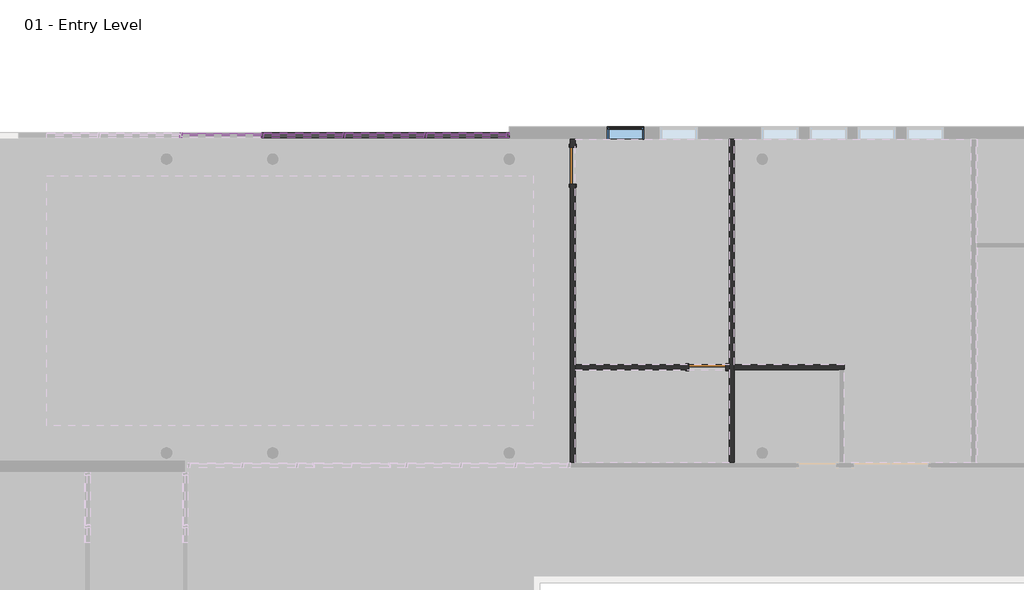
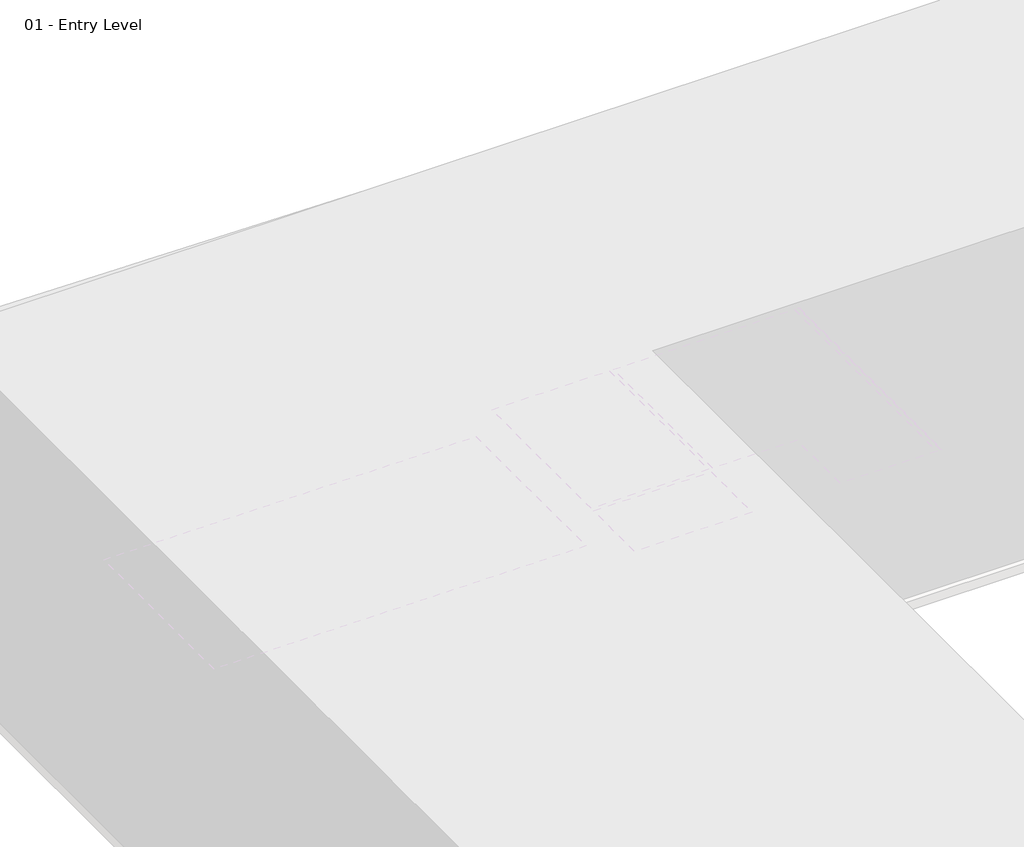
# One storey, part 29 of 34: 81 members, 36 plates, 3 walls, 2 doors, 1 window.
"""IFC4 building model written with IfcOpenShell, lengths in millimetres."""

from ifc_helpers import new_model, si_unit, origin, place, context, project, spatial, faceted_brep, transform, mapped, element, save
from components import door_a1797ceb, member_2b49869a, member_75074519, member_391b434c, member_9e90ae50, system_panel_glazed_1b9d6098, system_panel_glazed_70da479d, system_panel_solid_b376696c, system_panel_solid_77e8b053, window_dfee3f32

model = new_model("IFC4")

# Units and contexts
model_context = context("Model", 3, world=origin())
ifc_project = project(units=[si_unit("LENGTHUNIT", "METRE", prefix="MILLI")], contexts=[model_context])

# Site, building, storey
site = spatial("IfcSite", under=ifc_project)
building = spatial("IfcBuilding", under=site)
storey = spatial("IfcBuildingStorey", under=building, Name="01 - Entry Level", Elevation=0.0)

# Doors
placement = place(None, origin())
door_shape = door_a1797ceb(model_context)
element("IfcDoor", 1, ObjectType="Single-Flush : 36\" x 84\"", at=placement, inside=storey, context=model_context, shape_type="MappedRepresentation", body=[
    mapped(door_shape, transform((21413.1207476, 48047.2, 0.0), x_axis=(1.0, 0.0, 0.0), y_axis=(0.0, 1.0, 0.0), z_axis=(0.0, 0.0, 1.0))),
])
element("IfcDoor", 2, ObjectType="Single-Flush-Dbl Acting : 36\" x 84\"", at=placement, inside=storey, context=model_context, shape_type="MappedRepresentation", body=[
    mapped(door_shape, transform((18060.3207476, 53063.7, 0.0), x_axis=(0.0, 1.0, 0.0), y_axis=(-1.0, 0.0, 0.0), z_axis=(0.0, 0.0, 1.0))),
])

# Members
member_shape = member_2b49869a(model_context)
element("IfcMember", 3, ObjectType="Rectangular Mullion : 2.5\" x 5\" rectangular", at=placement, inside=storey, context=model_context, shape_type="MappedRepresentation", body=[
    mapped(member_shape, transform((16434.7207476, 53825.7, 9753.6), x_axis=(-1.0, 0.0, 0.0), y_axis=(0.0, 1.0, 0.0), z_axis=(0.0, 0.0, -1.0))),
])
element("IfcMember", 4, ObjectType="Rectangular Mullion : 2.5\" x 5\" rectangular", at=placement, inside=storey, context=model_context, shape_type="MappedRepresentation", body=[
    mapped(member_shape, transform((14402.7207476, 53825.7, 9753.6), x_axis=(-1.0, 0.0, 0.0), y_axis=(0.0, 1.0, 0.0), z_axis=(0.0, 0.0, -1.0))),
])
element("IfcMember", 5, ObjectType="Rectangular Mullion : 2.5\" x 5\" rectangular", at=placement, inside=storey, context=model_context, shape_type="MappedRepresentation", body=[
    mapped(member_shape, transform((12370.7207476, 53825.7, 9753.6), x_axis=(-1.0, 0.0, 0.0), y_axis=(0.0, 1.0, 0.0), z_axis=(0.0, 0.0, -1.0))),
])
element("IfcMember", 6, ObjectType="Rectangular Mullion : 2.5\" x 5\" rectangular", at=placement, inside=storey, context=model_context, shape_type="MappedRepresentation", body=[
    mapped(member_shape, transform((10338.7207476, 53825.7, 9753.6), x_axis=(-1.0, 0.0, 0.0), y_axis=(0.0, 1.0, 0.0), z_axis=(0.0, 0.0, -1.0))),
])
element("IfcMember", 7, ObjectType="Rectangular Mullion : 2.5\" x 5\" rectangular", at=placement, inside=storey, context=model_context, shape_type="MappedRepresentation", body=[
    mapped(member_shape, transform((8306.7207476, 53825.7, 9753.6), x_axis=(-1.0, 0.0, 0.0), y_axis=(0.0, 1.0, 0.0), z_axis=(0.0, 0.0, -1.0))),
])
member_2_shape = member_75074519(model_context)
element("IfcMember", 8, ObjectType="Rectangular Mullion : 2.5\" x 5\" rectangular", at=placement, inside=storey, context=model_context, shape_type="MappedRepresentation", body=[
    mapped(member_2_shape, transform((16485.5207476, 53825.7, 10972.8), x_axis=(1.0, 0.0, 0.0), y_axis=(0.0, 1.0, 0.0), z_axis=(0.0, 0.0, 1.0))),
])
member_3_shape = member_391b434c(model_context)
element("IfcMember", 9, ObjectType="Rectangular Mullion : 2.5\" x 5\" rectangular", at=placement, inside=storey, context=model_context, shape_type="MappedRepresentation", body=[
    mapped(member_3_shape, transform((14434.4707476, 53825.7, 10972.8), x_axis=(0.0, 0.0, 1.0), y_axis=(0.0, 1.0, 0.0), z_axis=(-1.0, 0.0, 0.0))),
])
element("IfcMember", 10, ObjectType="Rectangular Mullion : 2.5\" x 5\" rectangular", at=placement, inside=storey, context=model_context, shape_type="MappedRepresentation", body=[
    mapped(member_3_shape, transform((12402.4707476, 53825.7, 10972.8), x_axis=(0.0, 0.0, 1.0), y_axis=(0.0, 1.0, 0.0), z_axis=(-1.0, 0.0, 0.0))),
])
element("IfcMember", 11, ObjectType="Rectangular Mullion : 2.5\" x 5\" rectangular", at=placement, inside=storey, context=model_context, shape_type="MappedRepresentation", body=[
    mapped(member_3_shape, transform((10370.4707476, 53825.7, 10972.8), x_axis=(0.0, 0.0, 1.0), y_axis=(0.0, 1.0, 0.0), z_axis=(-1.0, 0.0, 0.0))),
])
element("IfcMember", 12, ObjectType="Rectangular Mullion : 2.5\" x 5\" rectangular", at=placement, inside=storey, context=model_context, shape_type="MappedRepresentation", body=[
    mapped(member_3_shape, transform((16402.9707476, 53825.7, 0.0), x_axis=(0.0, 0.0, -1.0), y_axis=(0.0, 1.0, 0.0), z_axis=(1.0, 0.0, 0.0))),
])
element("IfcMember", 13, ObjectType="Rectangular Mullion : 2.5\" x 5\" rectangular", at=placement, inside=storey, context=model_context, shape_type="MappedRepresentation", body=[
    mapped(member_3_shape, transform((14370.9707476, 53825.7, 0.0), x_axis=(0.0, 0.0, -1.0), y_axis=(0.0, 1.0, 0.0), z_axis=(1.0, 0.0, 0.0))),
])
element("IfcMember", 14, ObjectType="Rectangular Mullion : 2.5\" x 5\" rectangular", at=placement, inside=storey, context=model_context, shape_type="MappedRepresentation", body=[
    mapped(member_3_shape, transform((12338.9707476, 53825.7, 0.0), x_axis=(0.0, 0.0, -1.0), y_axis=(0.0, 1.0, 0.0), z_axis=(1.0, 0.0, 0.0))),
])
element("IfcMember", 15, ObjectType="Rectangular Mullion : 2.5\" x 5\" rectangular", at=placement, inside=storey, context=model_context, shape_type="MappedRepresentation", body=[
    mapped(member_3_shape, transform((10306.9707476, 53825.7, 0.0), x_axis=(0.0, 0.0, -1.0), y_axis=(0.0, 1.0, 0.0), z_axis=(1.0, 0.0, 0.0))),
])
member_4_shape = member_9e90ae50(model_context)
element("IfcMember", 16, ObjectType="Rectangular Mullion : 2.5\" x 5\" rectangular", at=placement, inside=storey, context=model_context, shape_type="MappedRepresentation", body=[
    mapped(member_4_shape, transform((14434.4707476, 53825.7, 1219.2), x_axis=(0.0, 0.0, 1.0), y_axis=(0.0, 1.0, 0.0), z_axis=(-1.0, 0.0, 0.0))),
])
element("IfcMember", 17, ObjectType="Rectangular Mullion : 2.5\" x 5\" rectangular", at=placement, inside=storey, context=model_context, shape_type="MappedRepresentation", body=[
    mapped(member_4_shape, transform((12402.4707476, 53825.7, 1219.2), x_axis=(0.0, 0.0, 1.0), y_axis=(0.0, 1.0, 0.0), z_axis=(-1.0, 0.0, 0.0))),
])
element("IfcMember", 18, ObjectType="Rectangular Mullion : 2.5\" x 5\" rectangular", at=placement, inside=storey, context=model_context, shape_type="MappedRepresentation", body=[
    mapped(member_4_shape, transform((10370.4707476, 53825.7, 1219.2), x_axis=(0.0, 0.0, 1.0), y_axis=(0.0, 1.0, 0.0), z_axis=(-1.0, 0.0, 0.0))),
])
element("IfcMember", 19, ObjectType="Rectangular Mullion : 2.5\" x 5\" rectangular", at=placement, inside=storey, context=model_context, shape_type="MappedRepresentation", body=[
    mapped(member_4_shape, transform((14434.4707476, 53825.7, 2438.4), x_axis=(0.0, 0.0, 1.0), y_axis=(0.0, 1.0, 0.0), z_axis=(-1.0, 0.0, 0.0))),
])
element("IfcMember", 20, ObjectType="Rectangular Mullion : 2.5\" x 5\" rectangular", at=placement, inside=storey, context=model_context, shape_type="MappedRepresentation", body=[
    mapped(member_4_shape, transform((12402.4707476, 53825.7, 2438.4), x_axis=(0.0, 0.0, 1.0), y_axis=(0.0, 1.0, 0.0), z_axis=(-1.0, 0.0, 0.0))),
])
element("IfcMember", 21, ObjectType="Rectangular Mullion : 2.5\" x 5\" rectangular", at=placement, inside=storey, context=model_context, shape_type="MappedRepresentation", body=[
    mapped(member_4_shape, transform((10370.4707476, 53825.7, 2438.4), x_axis=(0.0, 0.0, 1.0), y_axis=(0.0, 1.0, 0.0), z_axis=(-1.0, 0.0, 0.0))),
])
element("IfcMember", 22, ObjectType="Rectangular Mullion : 2.5\" x 5\" rectangular", at=placement, inside=storey, context=model_context, shape_type="MappedRepresentation", body=[
    mapped(member_4_shape, transform((14434.4707476, 53825.7, 3657.6), x_axis=(0.0, 0.0, 1.0), y_axis=(0.0, 1.0, 0.0), z_axis=(-1.0, 0.0, 0.0))),
])
element("IfcMember", 23, ObjectType="Rectangular Mullion : 2.5\" x 5\" rectangular", at=placement, inside=storey, context=model_context, shape_type="MappedRepresentation", body=[
    mapped(member_4_shape, transform((12402.4707476, 53825.7, 3657.6), x_axis=(0.0, 0.0, 1.0), y_axis=(0.0, 1.0, 0.0), z_axis=(-1.0, 0.0, 0.0))),
])
element("IfcMember", 24, ObjectType="Rectangular Mullion : 2.5\" x 5\" rectangular", at=placement, inside=storey, context=model_context, shape_type="MappedRepresentation", body=[
    mapped(member_4_shape, transform((10370.4707476, 53825.7, 3657.6), x_axis=(0.0, 0.0, 1.0), y_axis=(0.0, 1.0, 0.0), z_axis=(-1.0, 0.0, 0.0))),
])
element("IfcMember", 25, ObjectType="Rectangular Mullion : 2.5\" x 5\" rectangular", at=placement, inside=storey, context=model_context, shape_type="MappedRepresentation", body=[
    mapped(member_4_shape, transform((14434.4707476, 53825.7, 4876.8), x_axis=(0.0, 0.0, 1.0), y_axis=(0.0, 1.0, 0.0), z_axis=(-1.0, 0.0, 0.0))),
])
element("IfcMember", 26, ObjectType="Rectangular Mullion : 2.5\" x 5\" rectangular", at=placement, inside=storey, context=model_context, shape_type="MappedRepresentation", body=[
    mapped(member_4_shape, transform((12402.4707476, 53825.7, 4876.8), x_axis=(0.0, 0.0, 1.0), y_axis=(0.0, 1.0, 0.0), z_axis=(-1.0, 0.0, 0.0))),
])
element("IfcMember", 27, ObjectType="Rectangular Mullion : 2.5\" x 5\" rectangular", at=placement, inside=storey, context=model_context, shape_type="MappedRepresentation", body=[
    mapped(member_4_shape, transform((10370.4707476, 53825.7, 4876.8), x_axis=(0.0, 0.0, 1.0), y_axis=(0.0, 1.0, 0.0), z_axis=(-1.0, 0.0, 0.0))),
])
element("IfcMember", 28, ObjectType="Rectangular Mullion : 2.5\" x 5\" rectangular", at=placement, inside=storey, context=model_context, shape_type="MappedRepresentation", body=[
    mapped(member_4_shape, transform((14434.4707476, 53825.7, 6096.0), x_axis=(0.0, 0.0, 1.0), y_axis=(0.0, 1.0, 0.0), z_axis=(-1.0, 0.0, 0.0))),
])
element("IfcMember", 29, ObjectType="Rectangular Mullion : 2.5\" x 5\" rectangular", at=placement, inside=storey, context=model_context, shape_type="MappedRepresentation", body=[
    mapped(member_4_shape, transform((12402.4707476, 53825.7, 6096.0), x_axis=(0.0, 0.0, 1.0), y_axis=(0.0, 1.0, 0.0), z_axis=(-1.0, 0.0, 0.0))),
])
element("IfcMember", 30, ObjectType="Rectangular Mullion : 2.5\" x 5\" rectangular", at=placement, inside=storey, context=model_context, shape_type="MappedRepresentation", body=[
    mapped(member_4_shape, transform((10370.4707476, 53825.7, 6096.0), x_axis=(0.0, 0.0, 1.0), y_axis=(0.0, 1.0, 0.0), z_axis=(-1.0, 0.0, 0.0))),
])
element("IfcMember", 31, ObjectType="Rectangular Mullion : 2.5\" x 5\" rectangular", at=placement, inside=storey, context=model_context, shape_type="MappedRepresentation", body=[
    mapped(member_4_shape, transform((14434.4707476, 53825.7, 7315.2), x_axis=(0.0, 0.0, 1.0), y_axis=(0.0, 1.0, 0.0), z_axis=(-1.0, 0.0, 0.0))),
])
element("IfcMember", 32, ObjectType="Rectangular Mullion : 2.5\" x 5\" rectangular", at=placement, inside=storey, context=model_context, shape_type="MappedRepresentation", body=[
    mapped(member_4_shape, transform((12402.4707476, 53825.7, 7315.2), x_axis=(0.0, 0.0, 1.0), y_axis=(0.0, 1.0, 0.0), z_axis=(-1.0, 0.0, 0.0))),
])
element("IfcMember", 33, ObjectType="Rectangular Mullion : 2.5\" x 5\" rectangular", at=placement, inside=storey, context=model_context, shape_type="MappedRepresentation", body=[
    mapped(member_4_shape, transform((10370.4707476, 53825.7, 7315.2), x_axis=(0.0, 0.0, 1.0), y_axis=(0.0, 1.0, 0.0), z_axis=(-1.0, 0.0, 0.0))),
])
element("IfcMember", 34, ObjectType="Rectangular Mullion : 2.5\" x 5\" rectangular", at=placement, inside=storey, context=model_context, shape_type="MappedRepresentation", body=[
    mapped(member_4_shape, transform((14434.4707476, 53825.7, 8534.4), x_axis=(0.0, 0.0, 1.0), y_axis=(0.0, 1.0, 0.0), z_axis=(-1.0, 0.0, 0.0))),
])
element("IfcMember", 35, ObjectType="Rectangular Mullion : 2.5\" x 5\" rectangular", at=placement, inside=storey, context=model_context, shape_type="MappedRepresentation", body=[
    mapped(member_4_shape, transform((12402.4707476, 53825.7, 8534.4), x_axis=(0.0, 0.0, 1.0), y_axis=(0.0, 1.0, 0.0), z_axis=(-1.0, 0.0, 0.0))),
])
element("IfcMember", 36, ObjectType="Rectangular Mullion : 2.5\" x 5\" rectangular", at=placement, inside=storey, context=model_context, shape_type="MappedRepresentation", body=[
    mapped(member_4_shape, transform((10370.4707476, 53825.7, 8534.4), x_axis=(0.0, 0.0, 1.0), y_axis=(0.0, 1.0, 0.0), z_axis=(-1.0, 0.0, 0.0))),
])
element("IfcMember", 37, ObjectType="Rectangular Mullion : 2.5\" x 5\" rectangular", at=placement, inside=storey, context=model_context, shape_type="MappedRepresentation", body=[
    mapped(member_4_shape, transform((14434.4707476, 53825.7, 9753.6), x_axis=(0.0, 0.0, 1.0), y_axis=(0.0, 1.0, 0.0), z_axis=(-1.0, 0.0, 0.0))),
])
element("IfcMember", 38, ObjectType="Rectangular Mullion : 2.5\" x 5\" rectangular", at=placement, inside=storey, context=model_context, shape_type="MappedRepresentation", body=[
    mapped(member_4_shape, transform((12402.4707476, 53825.7, 9753.6), x_axis=(0.0, 0.0, 1.0), y_axis=(0.0, 1.0, 0.0), z_axis=(-1.0, 0.0, 0.0))),
])
element("IfcMember", 39, ObjectType="Rectangular Mullion : 2.5\" x 5\" rectangular", at=placement, inside=storey, context=model_context, shape_type="MappedRepresentation", body=[
    mapped(member_4_shape, transform((10370.4707476, 53825.7, 9753.6), x_axis=(0.0, 0.0, 1.0), y_axis=(0.0, 1.0, 0.0), z_axis=(-1.0, 0.0, 0.0))),
])
element("IfcMember", 40, ObjectType="Rectangular Mullion : 2.5\" x 5\" rectangular", at=placement, inside=storey, context=model_context, shape_type="MappedRepresentation", body=[
    mapped(member_shape, transform((16434.7207476, 53825.7, 0.0), x_axis=(-1.0, 0.0, 0.0), y_axis=(0.0, 1.0, 0.0), z_axis=(0.0, 0.0, -1.0))),
])
element("IfcMember", 41, ObjectType="Rectangular Mullion : 2.5\" x 5\" rectangular", at=placement, inside=storey, context=model_context, shape_type="MappedRepresentation", body=[
    mapped(member_shape, transform((14402.7207476, 53825.7, 0.0), x_axis=(-1.0, 0.0, 0.0), y_axis=(0.0, 1.0, 0.0), z_axis=(0.0, 0.0, -1.0))),
])
element("IfcMember", 42, ObjectType="Rectangular Mullion : 2.5\" x 5\" rectangular", at=placement, inside=storey, context=model_context, shape_type="MappedRepresentation", body=[
    mapped(member_shape, transform((12370.7207476, 53825.7, 0.0), x_axis=(-1.0, 0.0, 0.0), y_axis=(0.0, 1.0, 0.0), z_axis=(0.0, 0.0, -1.0))),
])
element("IfcMember", 43, ObjectType="Rectangular Mullion : 2.5\" x 5\" rectangular", at=placement, inside=storey, context=model_context, shape_type="MappedRepresentation", body=[
    mapped(member_shape, transform((10338.7207476, 53825.7, 0.0), x_axis=(-1.0, 0.0, 0.0), y_axis=(0.0, 1.0, 0.0), z_axis=(0.0, 0.0, -1.0))),
])
element("IfcMember", 44, ObjectType="Rectangular Mullion : 2.5\" x 5\" rectangular", at=placement, inside=storey, context=model_context, shape_type="MappedRepresentation", body=[
    mapped(member_shape, transform((16434.7207476, 53825.7, 1219.2), x_axis=(-1.0, 0.0, 0.0), y_axis=(0.0, 1.0, 0.0), z_axis=(0.0, 0.0, -1.0))),
])
element("IfcMember", 45, ObjectType="Rectangular Mullion : 2.5\" x 5\" rectangular", at=placement, inside=storey, context=model_context, shape_type="MappedRepresentation", body=[
    mapped(member_shape, transform((14402.7207476, 53825.7, 1219.2), x_axis=(-1.0, 0.0, 0.0), y_axis=(0.0, 1.0, 0.0), z_axis=(0.0, 0.0, -1.0))),
])
element("IfcMember", 46, ObjectType="Rectangular Mullion : 2.5\" x 5\" rectangular", at=placement, inside=storey, context=model_context, shape_type="MappedRepresentation", body=[
    mapped(member_shape, transform((12370.7207476, 53825.7, 1219.2), x_axis=(-1.0, 0.0, 0.0), y_axis=(0.0, 1.0, 0.0), z_axis=(0.0, 0.0, -1.0))),
])
element("IfcMember", 47, ObjectType="Rectangular Mullion : 2.5\" x 5\" rectangular", at=placement, inside=storey, context=model_context, shape_type="MappedRepresentation", body=[
    mapped(member_shape, transform((10338.7207476, 53825.7, 1219.2), x_axis=(-1.0, 0.0, 0.0), y_axis=(0.0, 1.0, 0.0), z_axis=(0.0, 0.0, -1.0))),
])
element("IfcMember", 48, ObjectType="Rectangular Mullion : 2.5\" x 5\" rectangular", at=placement, inside=storey, context=model_context, shape_type="MappedRepresentation", body=[
    mapped(member_shape, transform((16434.7207476, 53825.7, 2438.4), x_axis=(-1.0, 0.0, 0.0), y_axis=(0.0, 1.0, 0.0), z_axis=(0.0, 0.0, -1.0))),
])
element("IfcMember", 49, ObjectType="Rectangular Mullion : 2.5\" x 5\" rectangular", at=placement, inside=storey, context=model_context, shape_type="MappedRepresentation", body=[
    mapped(member_shape, transform((14402.7207476, 53825.7, 2438.4), x_axis=(-1.0, 0.0, 0.0), y_axis=(0.0, 1.0, 0.0), z_axis=(0.0, 0.0, -1.0))),
])
element("IfcMember", 50, ObjectType="Rectangular Mullion : 2.5\" x 5\" rectangular", at=placement, inside=storey, context=model_context, shape_type="MappedRepresentation", body=[
    mapped(member_shape, transform((12370.7207476, 53825.7, 2438.4), x_axis=(-1.0, 0.0, 0.0), y_axis=(0.0, 1.0, 0.0), z_axis=(0.0, 0.0, -1.0))),
])
element("IfcMember", 51, ObjectType="Rectangular Mullion : 2.5\" x 5\" rectangular", at=placement, inside=storey, context=model_context, shape_type="MappedRepresentation", body=[
    mapped(member_shape, transform((10338.7207476, 53825.7, 2438.4), x_axis=(-1.0, 0.0, 0.0), y_axis=(0.0, 1.0, 0.0), z_axis=(0.0, 0.0, -1.0))),
])
element("IfcMember", 52, ObjectType="Rectangular Mullion : 2.5\" x 5\" rectangular", at=placement, inside=storey, context=model_context, shape_type="MappedRepresentation", body=[
    mapped(member_shape, transform((16434.7207476, 53825.7, 3657.6), x_axis=(-1.0, 0.0, 0.0), y_axis=(0.0, 1.0, 0.0), z_axis=(0.0, 0.0, -1.0))),
])
element("IfcMember", 53, ObjectType="Rectangular Mullion : 2.5\" x 5\" rectangular", at=placement, inside=storey, context=model_context, shape_type="MappedRepresentation", body=[
    mapped(member_shape, transform((14402.7207476, 53825.7, 3657.6), x_axis=(-1.0, 0.0, 0.0), y_axis=(0.0, 1.0, 0.0), z_axis=(0.0, 0.0, -1.0))),
])
element("IfcMember", 54, ObjectType="Rectangular Mullion : 2.5\" x 5\" rectangular", at=placement, inside=storey, context=model_context, shape_type="MappedRepresentation", body=[
    mapped(member_shape, transform((12370.7207476, 53825.7, 3657.6), x_axis=(-1.0, 0.0, 0.0), y_axis=(0.0, 1.0, 0.0), z_axis=(0.0, 0.0, -1.0))),
])
element("IfcMember", 55, ObjectType="Rectangular Mullion : 2.5\" x 5\" rectangular", at=placement, inside=storey, context=model_context, shape_type="MappedRepresentation", body=[
    mapped(member_shape, transform((10338.7207476, 53825.7, 3657.6), x_axis=(-1.0, 0.0, 0.0), y_axis=(0.0, 1.0, 0.0), z_axis=(0.0, 0.0, -1.0))),
])
element("IfcMember", 56, ObjectType="Rectangular Mullion : 2.5\" x 5\" rectangular", at=placement, inside=storey, context=model_context, shape_type="MappedRepresentation", body=[
    mapped(member_shape, transform((16434.7207476, 53825.7, 4876.8), x_axis=(-1.0, 0.0, 0.0), y_axis=(0.0, 1.0, 0.0), z_axis=(0.0, 0.0, -1.0))),
])
element("IfcMember", 57, ObjectType="Rectangular Mullion : 2.5\" x 5\" rectangular", at=placement, inside=storey, context=model_context, shape_type="MappedRepresentation", body=[
    mapped(member_shape, transform((14402.7207476, 53825.7, 4876.8), x_axis=(-1.0, 0.0, 0.0), y_axis=(0.0, 1.0, 0.0), z_axis=(0.0, 0.0, -1.0))),
])
element("IfcMember", 58, ObjectType="Rectangular Mullion : 2.5\" x 5\" rectangular", at=placement, inside=storey, context=model_context, shape_type="MappedRepresentation", body=[
    mapped(member_shape, transform((12370.7207476, 53825.7, 4876.8), x_axis=(-1.0, 0.0, 0.0), y_axis=(0.0, 1.0, 0.0), z_axis=(0.0, 0.0, -1.0))),
])
element("IfcMember", 59, ObjectType="Rectangular Mullion : 2.5\" x 5\" rectangular", at=placement, inside=storey, context=model_context, shape_type="MappedRepresentation", body=[
    mapped(member_shape, transform((10338.7207476, 53825.7, 4876.8), x_axis=(-1.0, 0.0, 0.0), y_axis=(0.0, 1.0, 0.0), z_axis=(0.0, 0.0, -1.0))),
])
element("IfcMember", 60, ObjectType="Rectangular Mullion : 2.5\" x 5\" rectangular", at=placement, inside=storey, context=model_context, shape_type="MappedRepresentation", body=[
    mapped(member_shape, transform((8306.7207476, 53825.7, 4876.8), x_axis=(-1.0, 0.0, 0.0), y_axis=(0.0, 1.0, 0.0), z_axis=(0.0, 0.0, -1.0))),
])
element("IfcMember", 61, ObjectType="Rectangular Mullion : 2.5\" x 5\" rectangular", at=placement, inside=storey, context=model_context, shape_type="MappedRepresentation", body=[
    mapped(member_shape, transform((16434.7207476, 53825.7, 6096.0), x_axis=(-1.0, 0.0, 0.0), y_axis=(0.0, 1.0, 0.0), z_axis=(0.0, 0.0, -1.0))),
])
element("IfcMember", 62, ObjectType="Rectangular Mullion : 2.5\" x 5\" rectangular", at=placement, inside=storey, context=model_context, shape_type="MappedRepresentation", body=[
    mapped(member_shape, transform((14402.7207476, 53825.7, 6096.0), x_axis=(-1.0, 0.0, 0.0), y_axis=(0.0, 1.0, 0.0), z_axis=(0.0, 0.0, -1.0))),
])
element("IfcMember", 63, ObjectType="Rectangular Mullion : 2.5\" x 5\" rectangular", at=placement, inside=storey, context=model_context, shape_type="MappedRepresentation", body=[
    mapped(member_shape, transform((12370.7207476, 53825.7, 6096.0), x_axis=(-1.0, 0.0, 0.0), y_axis=(0.0, 1.0, 0.0), z_axis=(0.0, 0.0, -1.0))),
])
element("IfcMember", 64, ObjectType="Rectangular Mullion : 2.5\" x 5\" rectangular", at=placement, inside=storey, context=model_context, shape_type="MappedRepresentation", body=[
    mapped(member_shape, transform((10338.7207476, 53825.7, 6096.0), x_axis=(-1.0, 0.0, 0.0), y_axis=(0.0, 1.0, 0.0), z_axis=(0.0, 0.0, -1.0))),
])
element("IfcMember", 65, ObjectType="Rectangular Mullion : 2.5\" x 5\" rectangular", at=placement, inside=storey, context=model_context, shape_type="MappedRepresentation", body=[
    mapped(member_shape, transform((8306.7207476, 53825.7, 6096.0), x_axis=(-1.0, 0.0, 0.0), y_axis=(0.0, 1.0, 0.0), z_axis=(0.0, 0.0, -1.0))),
])
element("IfcMember", 66, ObjectType="Rectangular Mullion : 2.5\" x 5\" rectangular", at=placement, inside=storey, context=model_context, shape_type="MappedRepresentation", body=[
    mapped(member_shape, transform((16434.7207476, 53825.7, 7315.2), x_axis=(-1.0, 0.0, 0.0), y_axis=(0.0, 1.0, 0.0), z_axis=(0.0, 0.0, -1.0))),
])
element("IfcMember", 67, ObjectType="Rectangular Mullion : 2.5\" x 5\" rectangular", at=placement, inside=storey, context=model_context, shape_type="MappedRepresentation", body=[
    mapped(member_shape, transform((14402.7207476, 53825.7, 7315.2), x_axis=(-1.0, 0.0, 0.0), y_axis=(0.0, 1.0, 0.0), z_axis=(0.0, 0.0, -1.0))),
])
element("IfcMember", 68, ObjectType="Rectangular Mullion : 2.5\" x 5\" rectangular", at=placement, inside=storey, context=model_context, shape_type="MappedRepresentation", body=[
    mapped(member_shape, transform((12370.7207476, 53825.7, 7315.2), x_axis=(-1.0, 0.0, 0.0), y_axis=(0.0, 1.0, 0.0), z_axis=(0.0, 0.0, -1.0))),
])
element("IfcMember", 69, ObjectType="Rectangular Mullion : 2.5\" x 5\" rectangular", at=placement, inside=storey, context=model_context, shape_type="MappedRepresentation", body=[
    mapped(member_shape, transform((10338.7207476, 53825.7, 7315.2), x_axis=(-1.0, 0.0, 0.0), y_axis=(0.0, 1.0, 0.0), z_axis=(0.0, 0.0, -1.0))),
])
element("IfcMember", 70, ObjectType="Rectangular Mullion : 2.5\" x 5\" rectangular", at=placement, inside=storey, context=model_context, shape_type="MappedRepresentation", body=[
    mapped(member_shape, transform((8306.7207476, 53825.7, 7315.2), x_axis=(-1.0, 0.0, 0.0), y_axis=(0.0, 1.0, 0.0), z_axis=(0.0, 0.0, -1.0))),
])
element("IfcMember", 71, ObjectType="Rectangular Mullion : 2.5\" x 5\" rectangular", at=placement, inside=storey, context=model_context, shape_type="MappedRepresentation", body=[
    mapped(member_shape, transform((16434.7207476, 53825.7, 8534.4), x_axis=(-1.0, 0.0, 0.0), y_axis=(0.0, 1.0, 0.0), z_axis=(0.0, 0.0, -1.0))),
])
element("IfcMember", 72, ObjectType="Rectangular Mullion : 2.5\" x 5\" rectangular", at=placement, inside=storey, context=model_context, shape_type="MappedRepresentation", body=[
    mapped(member_shape, transform((14402.7207476, 53825.7, 8534.4), x_axis=(-1.0, 0.0, 0.0), y_axis=(0.0, 1.0, 0.0), z_axis=(0.0, 0.0, -1.0))),
])
element("IfcMember", 73, ObjectType="Rectangular Mullion : 2.5\" x 5\" rectangular", at=placement, inside=storey, context=model_context, shape_type="MappedRepresentation", body=[
    mapped(member_shape, transform((12370.7207476, 53825.7, 8534.4), x_axis=(-1.0, 0.0, 0.0), y_axis=(0.0, 1.0, 0.0), z_axis=(0.0, 0.0, -1.0))),
])
element("IfcMember", 74, ObjectType="Rectangular Mullion : 2.5\" x 5\" rectangular", at=placement, inside=storey, context=model_context, shape_type="MappedRepresentation", body=[
    mapped(member_shape, transform((10338.7207476, 53825.7, 8534.4), x_axis=(-1.0, 0.0, 0.0), y_axis=(0.0, 1.0, 0.0), z_axis=(0.0, 0.0, -1.0))),
])
element("IfcMember", 75, ObjectType="Rectangular Mullion : 2.5\" x 5\" rectangular", at=placement, inside=storey, context=model_context, shape_type="MappedRepresentation", body=[
    mapped(member_shape, transform((8306.7207476, 53825.7, 8534.4), x_axis=(-1.0, 0.0, 0.0), y_axis=(0.0, 1.0, 0.0), z_axis=(0.0, 0.0, -1.0))),
])
element("IfcMember", 76, ObjectType="Rectangular Mullion : 2.5\" x 5\" rectangular", at=placement, inside=storey, context=model_context, shape_type="MappedRepresentation", body=[
    mapped(member_2_shape, transform((16485.5207476, 53825.7, 1219.2), x_axis=(1.0, 0.0, 0.0), y_axis=(0.0, 1.0, 0.0), z_axis=(0.0, 0.0, 1.0))),
])
element("IfcMember", 77, ObjectType="Rectangular Mullion : 2.5\" x 5\" rectangular", at=placement, inside=storey, context=model_context, shape_type="MappedRepresentation", body=[
    mapped(member_2_shape, transform((16485.5207476, 53825.7, 2438.4), x_axis=(1.0, 0.0, 0.0), y_axis=(0.0, 1.0, 0.0), z_axis=(0.0, 0.0, 1.0))),
])
element("IfcMember", 78, ObjectType="Rectangular Mullion : 2.5\" x 5\" rectangular", at=placement, inside=storey, context=model_context, shape_type="MappedRepresentation", body=[
    mapped(member_2_shape, transform((16485.5207476, 53825.7, 3657.6), x_axis=(1.0, 0.0, 0.0), y_axis=(0.0, 1.0, 0.0), z_axis=(0.0, 0.0, 1.0))),
])
element("IfcMember", 79, ObjectType="Rectangular Mullion : 2.5\" x 5\" rectangular", at=placement, inside=storey, context=model_context, shape_type="MappedRepresentation", body=[
    mapped(member_2_shape, transform((16485.5207476, 53825.7, 4876.8), x_axis=(1.0, 0.0, 0.0), y_axis=(0.0, 1.0, 0.0), z_axis=(0.0, 0.0, 1.0))),
])
element("IfcMember", 80, ObjectType="Rectangular Mullion : 2.5\" x 5\" rectangular", at=placement, inside=storey, context=model_context, shape_type="MappedRepresentation", body=[
    mapped(member_2_shape, transform((16485.5207476, 53825.7, 6096.0), x_axis=(1.0, 0.0, 0.0), y_axis=(0.0, 1.0, 0.0), z_axis=(0.0, 0.0, 1.0))),
])
element("IfcMember", 81, ObjectType="Rectangular Mullion : 2.5\" x 5\" rectangular", at=placement, inside=storey, context=model_context, shape_type="MappedRepresentation", body=[
    mapped(member_2_shape, transform((16485.5207476, 53825.7, 7315.2), x_axis=(1.0, 0.0, 0.0), y_axis=(0.0, 1.0, 0.0), z_axis=(0.0, 0.0, 1.0))),
])
element("IfcMember", 82, ObjectType="Rectangular Mullion : 2.5\" x 5\" rectangular", at=placement, inside=storey, context=model_context, shape_type="MappedRepresentation", body=[
    mapped(member_2_shape, transform((16485.5207476, 53825.7, 8534.4), x_axis=(1.0, 0.0, 0.0), y_axis=(0.0, 1.0, 0.0), z_axis=(0.0, 0.0, 1.0))),
])
element("IfcMember", 83, ObjectType="Rectangular Mullion : 2.5\" x 5\" rectangular", at=placement, inside=storey, context=model_context, shape_type="MappedRepresentation", body=[
    mapped(member_2_shape, transform((16485.5207476, 53825.7, 9753.6), x_axis=(1.0, 0.0, 0.0), y_axis=(0.0, 1.0, 0.0), z_axis=(0.0, 0.0, 1.0))),
])

# Plates
system_panel_glazed_shape = system_panel_glazed_1b9d6098(model_context)
element("IfcPlate", 84, ObjectType="System Panel : Glazed", at=placement, inside=storey, context=model_context, shape_type="MappedRepresentation", body=[
    mapped(system_panel_glazed_shape, transform((15418.7207476, 53825.7, 63.5), x_axis=(-1.0, 0.0, 0.0), y_axis=(0.0, -1.0, 0.0), z_axis=(0.0, 0.0, 1.0))),
])
element("IfcPlate", 85, ObjectType="System Panel : Glazed", at=placement, inside=storey, context=model_context, shape_type="MappedRepresentation", body=[
    mapped(system_panel_glazed_shape, transform((13386.7207476, 53825.7, 63.5), x_axis=(-1.0, 0.0, 0.0), y_axis=(0.0, -1.0, 0.0), z_axis=(0.0, 0.0, 1.0))),
])
element("IfcPlate", 86, ObjectType="System Panel : Glazed", at=placement, inside=storey, context=model_context, shape_type="MappedRepresentation", body=[
    mapped(system_panel_glazed_shape, transform((11354.7207476, 53825.7, 63.5), x_axis=(-1.0, 0.0, 0.0), y_axis=(0.0, -1.0, 0.0), z_axis=(0.0, 0.0, 1.0))),
])
element("IfcPlate", 87, ObjectType="System Panel : Glazed", at=placement, inside=storey, context=model_context, shape_type="MappedRepresentation", body=[
    mapped(system_panel_glazed_shape, transform((9322.7207476, 53825.7, 63.5), x_axis=(-1.0, 0.0, 0.0), y_axis=(0.0, -1.0, 0.0), z_axis=(0.0, 0.0, 1.0))),
])
system_panel_glazed_2_shape = system_panel_glazed_70da479d(model_context)
element("IfcPlate", 88, ObjectType="System Panel : Glazed", at=placement, inside=storey, context=model_context, shape_type="MappedRepresentation", body=[
    mapped(system_panel_glazed_2_shape, transform((15418.7207476, 53825.7, 1250.95), x_axis=(-1.0, 0.0, 0.0), y_axis=(0.0, -1.0, 0.0), z_axis=(0.0, 0.0, 1.0))),
])
element("IfcPlate", 89, ObjectType="System Panel : Glazed", at=placement, inside=storey, context=model_context, shape_type="MappedRepresentation", body=[
    mapped(system_panel_glazed_2_shape, transform((13386.7207476, 53825.7, 1250.95), x_axis=(-1.0, 0.0, 0.0), y_axis=(0.0, -1.0, 0.0), z_axis=(0.0, 0.0, 1.0))),
])
element("IfcPlate", 90, ObjectType="System Panel : Glazed", at=placement, inside=storey, context=model_context, shape_type="MappedRepresentation", body=[
    mapped(system_panel_glazed_2_shape, transform((11354.7207476, 53825.7, 1250.95), x_axis=(-1.0, 0.0, 0.0), y_axis=(0.0, -1.0, 0.0), z_axis=(0.0, 0.0, 1.0))),
])
element("IfcPlate", 91, ObjectType="System Panel : Glazed", at=placement, inside=storey, context=model_context, shape_type="MappedRepresentation", body=[
    mapped(system_panel_glazed_2_shape, transform((9322.7207476, 53825.7, 1250.95), x_axis=(-1.0, 0.0, 0.0), y_axis=(0.0, -1.0, 0.0), z_axis=(0.0, 0.0, 1.0))),
])
element("IfcPlate", 92, ObjectType="System Panel : Glazed", at=placement, inside=storey, context=model_context, shape_type="MappedRepresentation", body=[
    mapped(system_panel_glazed_2_shape, transform((15418.7207476, 53825.7, 3689.35), x_axis=(-1.0, 0.0, 0.0), y_axis=(0.0, -1.0, 0.0), z_axis=(0.0, 0.0, 1.0))),
])
element("IfcPlate", 93, ObjectType="System Panel : Glazed", at=placement, inside=storey, context=model_context, shape_type="MappedRepresentation", body=[
    mapped(system_panel_glazed_2_shape, transform((13386.7207476, 53825.7, 3689.35), x_axis=(-1.0, 0.0, 0.0), y_axis=(0.0, -1.0, 0.0), z_axis=(0.0, 0.0, 1.0))),
])
element("IfcPlate", 94, ObjectType="System Panel : Glazed", at=placement, inside=storey, context=model_context, shape_type="MappedRepresentation", body=[
    mapped(system_panel_glazed_2_shape, transform((11354.7207476, 53825.7, 3689.35), x_axis=(-1.0, 0.0, 0.0), y_axis=(0.0, -1.0, 0.0), z_axis=(0.0, 0.0, 1.0))),
])
element("IfcPlate", 95, ObjectType="System Panel : Glazed", at=placement, inside=storey, context=model_context, shape_type="MappedRepresentation", body=[
    mapped(system_panel_glazed_2_shape, transform((9322.7207476, 53825.7, 3689.35), x_axis=(-1.0, 0.0, 0.0), y_axis=(0.0, -1.0, 0.0), z_axis=(0.0, 0.0, 1.0))),
])
element("IfcPlate", 96, ObjectType="System Panel : Glazed", at=placement, inside=storey, context=model_context, shape_type="MappedRepresentation", body=[
    mapped(system_panel_glazed_2_shape, transform((15418.7207476, 53825.7, 4908.55), x_axis=(-1.0, 0.0, 0.0), y_axis=(0.0, -1.0, 0.0), z_axis=(0.0, 0.0, 1.0))),
])
element("IfcPlate", 97, ObjectType="System Panel : Glazed", at=placement, inside=storey, context=model_context, shape_type="MappedRepresentation", body=[
    mapped(system_panel_glazed_2_shape, transform((13386.7207476, 53825.7, 4908.55), x_axis=(-1.0, 0.0, 0.0), y_axis=(0.0, -1.0, 0.0), z_axis=(0.0, 0.0, 1.0))),
])
element("IfcPlate", 98, ObjectType="System Panel : Glazed", at=placement, inside=storey, context=model_context, shape_type="MappedRepresentation", body=[
    mapped(system_panel_glazed_2_shape, transform((11354.7207476, 53825.7, 4908.55), x_axis=(-1.0, 0.0, 0.0), y_axis=(0.0, -1.0, 0.0), z_axis=(0.0, 0.0, 1.0))),
])
element("IfcPlate", 99, ObjectType="System Panel : Glazed", at=placement, inside=storey, context=model_context, shape_type="MappedRepresentation", body=[
    mapped(system_panel_glazed_2_shape, transform((9322.7207476, 53825.7, 4908.55), x_axis=(-1.0, 0.0, 0.0), y_axis=(0.0, -1.0, 0.0), z_axis=(0.0, 0.0, 1.0))),
])
element("IfcPlate", 100, ObjectType="System Panel : Glazed", at=placement, inside=storey, context=model_context, shape_type="MappedRepresentation", body=[
    mapped(system_panel_glazed_2_shape, transform((15418.7207476, 53825.7, 7346.95), x_axis=(-1.0, 0.0, 0.0), y_axis=(0.0, -1.0, 0.0), z_axis=(0.0, 0.0, 1.0))),
])
element("IfcPlate", 101, ObjectType="System Panel : Glazed", at=placement, inside=storey, context=model_context, shape_type="MappedRepresentation", body=[
    mapped(system_panel_glazed_2_shape, transform((13386.7207476, 53825.7, 7346.95), x_axis=(-1.0, 0.0, 0.0), y_axis=(0.0, -1.0, 0.0), z_axis=(0.0, 0.0, 1.0))),
])
element("IfcPlate", 102, ObjectType="System Panel : Glazed", at=placement, inside=storey, context=model_context, shape_type="MappedRepresentation", body=[
    mapped(system_panel_glazed_2_shape, transform((11354.7207476, 53825.7, 7346.95), x_axis=(-1.0, 0.0, 0.0), y_axis=(0.0, -1.0, 0.0), z_axis=(0.0, 0.0, 1.0))),
])
element("IfcPlate", 103, ObjectType="System Panel : Glazed", at=placement, inside=storey, context=model_context, shape_type="MappedRepresentation", body=[
    mapped(system_panel_glazed_2_shape, transform((9322.7207476, 53825.7, 7346.95), x_axis=(-1.0, 0.0, 0.0), y_axis=(0.0, -1.0, 0.0), z_axis=(0.0, 0.0, 1.0))),
])
element("IfcPlate", 104, ObjectType="System Panel : Glazed", at=placement, inside=storey, context=model_context, shape_type="MappedRepresentation", body=[
    mapped(system_panel_glazed_2_shape, transform((15418.7207476, 53825.7, 8566.15), x_axis=(-1.0, 0.0, 0.0), y_axis=(0.0, -1.0, 0.0), z_axis=(0.0, 0.0, 1.0))),
])
element("IfcPlate", 105, ObjectType="System Panel : Glazed", at=placement, inside=storey, context=model_context, shape_type="MappedRepresentation", body=[
    mapped(system_panel_glazed_2_shape, transform((13386.7207476, 53825.7, 8566.15), x_axis=(-1.0, 0.0, 0.0), y_axis=(0.0, -1.0, 0.0), z_axis=(0.0, 0.0, 1.0))),
])
element("IfcPlate", 106, ObjectType="System Panel : Glazed", at=placement, inside=storey, context=model_context, shape_type="MappedRepresentation", body=[
    mapped(system_panel_glazed_2_shape, transform((11354.7207476, 53825.7, 8566.15), x_axis=(-1.0, 0.0, 0.0), y_axis=(0.0, -1.0, 0.0), z_axis=(0.0, 0.0, 1.0))),
])
element("IfcPlate", 107, ObjectType="System Panel : Glazed", at=placement, inside=storey, context=model_context, shape_type="MappedRepresentation", body=[
    mapped(system_panel_glazed_2_shape, transform((9322.7207476, 53825.7, 8566.15), x_axis=(-1.0, 0.0, 0.0), y_axis=(0.0, -1.0, 0.0), z_axis=(0.0, 0.0, 1.0))),
])
system_panel_solid_shape = system_panel_solid_b376696c(model_context)
element("IfcPlate", 108, ObjectType="System Panel : Solid", at=placement, inside=storey, context=model_context, shape_type="MappedRepresentation", body=[
    mapped(system_panel_solid_shape, transform((15418.7207476, 53825.7, 9785.35), x_axis=(-1.0, 0.0, 0.0), y_axis=(0.0, -1.0, 0.0), z_axis=(0.0, 0.0, 1.0))),
])
element("IfcPlate", 109, ObjectType="System Panel : Solid", at=placement, inside=storey, context=model_context, shape_type="MappedRepresentation", body=[
    mapped(system_panel_solid_shape, transform((13386.7207476, 53825.7, 9785.35), x_axis=(-1.0, 0.0, 0.0), y_axis=(0.0, -1.0, 0.0), z_axis=(0.0, 0.0, 1.0))),
])
element("IfcPlate", 110, ObjectType="System Panel : Solid", at=placement, inside=storey, context=model_context, shape_type="MappedRepresentation", body=[
    mapped(system_panel_solid_shape, transform((11354.7207476, 53825.7, 9785.35), x_axis=(-1.0, 0.0, 0.0), y_axis=(0.0, -1.0, 0.0), z_axis=(0.0, 0.0, 1.0))),
])
element("IfcPlate", 111, ObjectType="System Panel : Solid", at=placement, inside=storey, context=model_context, shape_type="MappedRepresentation", body=[
    mapped(system_panel_solid_shape, transform((9322.7207476, 53825.7, 9785.35), x_axis=(-1.0, 0.0, 0.0), y_axis=(0.0, -1.0, 0.0), z_axis=(0.0, 0.0, 1.0))),
])
system_panel_solid_2_shape = system_panel_solid_77e8b053(model_context)
element("IfcPlate", 112, ObjectType="System Panel : Solid", at=placement, inside=storey, context=model_context, shape_type="MappedRepresentation", body=[
    mapped(system_panel_solid_2_shape, transform((15418.7207476, 53825.7, 2470.15), x_axis=(-1.0, 0.0, 0.0), y_axis=(0.0, -1.0, 0.0), z_axis=(0.0, 0.0, 1.0))),
])
element("IfcPlate", 113, ObjectType="System Panel : Solid", at=placement, inside=storey, context=model_context, shape_type="MappedRepresentation", body=[
    mapped(system_panel_solid_2_shape, transform((13386.7207476, 53825.7, 2470.15), x_axis=(-1.0, 0.0, 0.0), y_axis=(0.0, -1.0, 0.0), z_axis=(0.0, 0.0, 1.0))),
])
element("IfcPlate", 114, ObjectType="System Panel : Solid", at=placement, inside=storey, context=model_context, shape_type="MappedRepresentation", body=[
    mapped(system_panel_solid_2_shape, transform((11354.7207476, 53825.7, 2470.15), x_axis=(-1.0, 0.0, 0.0), y_axis=(0.0, -1.0, 0.0), z_axis=(0.0, 0.0, 1.0))),
])
element("IfcPlate", 115, ObjectType="System Panel : Solid", at=placement, inside=storey, context=model_context, shape_type="MappedRepresentation", body=[
    mapped(system_panel_solid_2_shape, transform((9322.7207476, 53825.7, 2470.15), x_axis=(-1.0, 0.0, 0.0), y_axis=(0.0, -1.0, 0.0), z_axis=(0.0, 0.0, 1.0))),
])
element("IfcPlate", 116, ObjectType="System Panel : Solid", at=placement, inside=storey, context=model_context, shape_type="MappedRepresentation", body=[
    mapped(system_panel_solid_2_shape, transform((15418.7207476, 53825.7, 6127.75), x_axis=(-1.0, 0.0, 0.0), y_axis=(0.0, -1.0, 0.0), z_axis=(0.0, 0.0, 1.0))),
])
element("IfcPlate", 117, ObjectType="System Panel : Solid", at=placement, inside=storey, context=model_context, shape_type="MappedRepresentation", body=[
    mapped(system_panel_solid_2_shape, transform((13386.7207476, 53825.7, 6127.75), x_axis=(-1.0, 0.0, 0.0), y_axis=(0.0, -1.0, 0.0), z_axis=(0.0, 0.0, 1.0))),
])
element("IfcPlate", 118, ObjectType="System Panel : Solid", at=placement, inside=storey, context=model_context, shape_type="MappedRepresentation", body=[
    mapped(system_panel_solid_2_shape, transform((11354.7207476, 53825.7, 6127.75), x_axis=(-1.0, 0.0, 0.0), y_axis=(0.0, -1.0, 0.0), z_axis=(0.0, 0.0, 1.0))),
])
element("IfcPlate", 119, ObjectType="System Panel : Solid", at=placement, inside=storey, context=model_context, shape_type="MappedRepresentation", body=[
    mapped(system_panel_solid_2_shape, transform((9322.7207476, 53825.7, 6127.75), x_axis=(-1.0, 0.0, 0.0), y_axis=(0.0, -1.0, 0.0), z_axis=(0.0, 0.0, 1.0))),
])

# Walls
element("IfcWall", 120, ObjectType="Generic - 5\"", at=placement, inside=storey, context=model_context, shape_type="Brep", body=[
    faceted_brep([(17996.8207476, 53724.1, 0.0), (17996.8207476, 53520.9, 0.0), (17996.8207476, 53520.9, 2133.6), (17996.8207476, 52606.5, 2133.6), (17996.8207476, 52606.5, 0.0), (17996.8207476, 45672.3, 0.0), (17996.8207476, 45672.3, 3403.6), (17996.8207476, 53724.1, 3403.6), (18123.8207476, 53520.9, 2133.6), (18123.8207476, 53520.9, 0.0), (18123.8207476, 53724.1, 0.0), (18123.8207476, 53724.1, 3403.6), (18123.8207476, 48110.7, 3403.6), (18123.8207476, 47983.7, 3403.6), (18123.8207476, 45672.3, 3403.6), (18123.8207476, 45672.3, 0.0), (18123.8207476, 47983.7, 0.0), (18123.8207476, 48110.7, 0.0), (18123.8207476, 52606.5, 0.0), (18123.8207476, 52606.5, 2133.6)], [[[0, 1, 2, 3, 4, 5, 6, 7]], [[8, 9, 10, 11, 12, 13, 14, 15, 16, 17, 18, 19]], [[10, 9, 1, 0]], [[18, 17, 16, 15, 5, 4]], [[0, 7, 11, 10]], [[6, 5, 15, 14]], [[7, 6, 14, 13, 12, 11]], [[2, 1, 9, 8]], [[3, 2, 8, 19]], [[4, 3, 19, 18]]]),
])
element("IfcWall", 121, ObjectType="Generic - 5\"", at=placement, inside=storey, context=model_context, shape_type="Brep", body=[
    faceted_brep([(21959.2207476, 53724.1, 0.0), (21959.2207476, 48110.7, 0.0), (21959.2207476, 47983.7, 0.0), (21959.2207476, 45672.3, 0.0), (21959.2207476, 45672.3, 3403.6), (21959.2207476, 47983.7, 3403.6), (21959.2207476, 48110.7, 3403.6), (21959.2207476, 53724.1, 3403.6), (22086.2207476, 53724.1, 0.0), (22086.2207476, 53724.1, 3403.6), (22086.2207476, 48110.7, 3403.6), (22086.2207476, 47983.7, 3403.6), (22086.2207476, 45672.3, 3403.6), (22086.2207476, 45672.3, 0.0), (22086.2207476, 47983.7, 0.0), (22086.2207476, 48110.7, 0.0)], [[[0, 1, 2, 3, 4, 5, 6, 7]], [[8, 9, 10, 11, 12, 13, 14, 15]], [[3, 2, 1, 0, 8, 15, 14, 13]], [[0, 7, 9, 8]], [[4, 3, 13, 12]], [[7, 6, 5, 4, 12, 11, 10, 9]]]),
])
element("IfcWall", 122, ObjectType="Generic - 5\"", at=placement, inside=storey, context=model_context, shape_type="Brep", body=[
    faceted_brep([(18123.8207476, 47983.7, 3403.6), (18123.8207476, 47983.7, 0.0), (20955.9207476, 47983.7, 0.0), (20955.9207476, 47983.7, 2133.6), (21870.3207476, 47983.7, 2133.6), (21870.3207476, 47983.7, 0.0), (21959.2207476, 47983.7, 0.0), (21959.2207476, 47983.7, 3403.6), (18123.8207476, 48110.7, 0.0), (18123.8207476, 48110.7, 3403.6), (21959.2207476, 48110.7, 3403.6), (21959.2207476, 48110.7, 0.0), (21870.3207476, 48110.7, 0.0), (21870.3207476, 48110.7, 2133.6), (20955.9207476, 48110.7, 2133.6), (20955.9207476, 48110.7, 0.0)], [[[0, 1, 2, 3, 4, 5, 6, 7]], [[8, 9, 10, 11, 12, 13, 14, 15]], [[1, 8, 15, 2]], [[5, 12, 11, 6]], [[1, 0, 9, 8]], [[9, 0, 7, 10]], [[13, 12, 5, 4]], [[14, 13, 4, 3]], [[15, 14, 3, 2]], [[7, 6, 11, 10]]]),
    faceted_brep([(24829.4207476, 47983.7, 0.0), (24829.4207476, 47983.7, 3403.6), (24702.4207476, 47983.7, 3403.6), (22086.2207476, 47983.7, 3403.6), (22086.2207476, 47983.7, 0.0), (24702.4207476, 47983.7, 0.0), (24829.4207476, 48110.7, 3403.6), (24829.4207476, 48110.7, 0.0), (22086.2207476, 48110.7, 0.0), (22086.2207476, 48110.7, 3403.6)], [[[0, 1, 2, 3, 4, 5]], [[6, 7, 8, 9]], [[7, 0, 5, 4, 8]], [[1, 0, 7, 6]], [[1, 6, 9, 3, 2]], [[4, 3, 9, 8]]]),
])

# Window
window_shape = window_dfee3f32(model_context)
element("IfcWindow", 123, ObjectType="Fixed : 36\" x 48\"", at=placement, inside=storey, context=model_context, shape_type="MappedRepresentation", body=[
    mapped(window_shape, transform((19419.2207476, 53878.0875, 0.0), x_axis=(1.0, 0.0, 0.0), y_axis=(0.0, 1.0, 0.0), z_axis=(0.0, 0.0, 1.0))),
])

save(model, "model.ifc")
